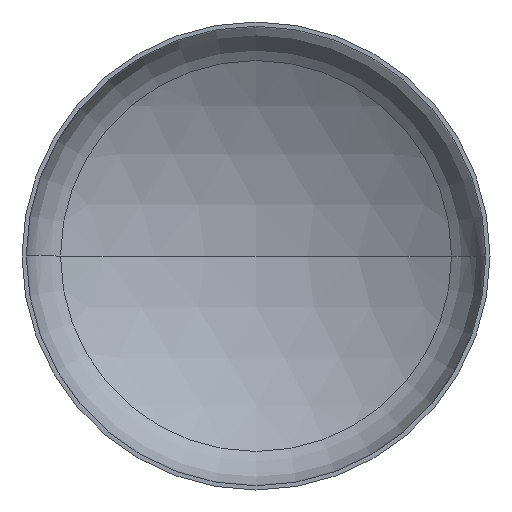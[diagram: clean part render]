
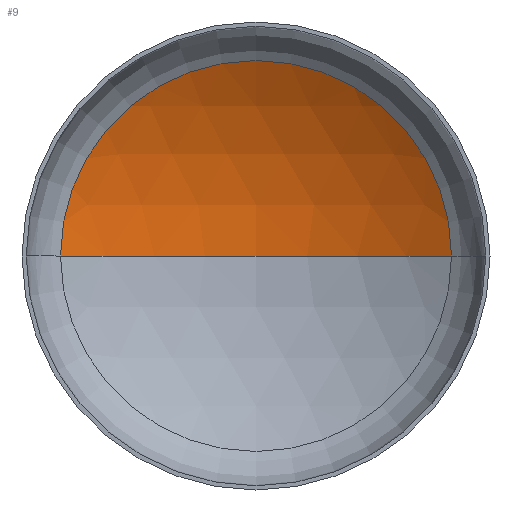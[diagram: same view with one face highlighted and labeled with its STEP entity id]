
A CAD part, front view. The second image highlights one B-rep face of the part: STEP entity #9.
In plain terms, the highlighted spherical face has radius 2560 mm.
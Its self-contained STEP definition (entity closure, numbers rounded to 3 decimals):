
#2 = DIRECTION ( 'NONE',  ( 0., -1., 0. ) ) ;
#9 = ADVANCED_FACE ( 'NONE', ( #149 ), #410, .F. ) ;
#19 = EDGE_LOOP ( 'NONE', ( #236, #142, #115 ) ) ;
#41 = AXIS2_PLACEMENT_3D ( 'NONE', #194, #208, #211 ) ;
#42 = AXIS2_PLACEMENT_3D ( 'NONE', #260, #259, #143 ) ;
#45 = AXIS2_PLACEMENT_3D ( 'NONE', #173, #2, #144 ) ;
#49 = VERTEX_POINT ( 'NONE', #255 ) ;
#60 = CARTESIAN_POINT ( 'NONE',  ( 0., 884.684, 0. ) ) ;
#77 = AXIS2_PLACEMENT_3D ( 'NONE', #367, #293, #297 ) ;
#98 = VERTEX_POINT ( 'NONE', #346 ) ;
#110 = EDGE_CURVE ( 'NONE', #49, #98, #343, .T. ) ;
#115 = ORIENTED_EDGE ( 'NONE', *, *, #110, .T. ) ;
#125 = VERTEX_POINT ( 'NONE', #60 ) ;
#133 = EDGE_CURVE ( 'NONE', #125, #49, #393, .T. ) ;
#142 = ORIENTED_EDGE ( 'NONE', *, *, #133, .T. ) ;
#143 = DIRECTION ( 'NONE',  ( 1., 0., 0. ) ) ;
#144 = DIRECTION ( 'NONE',  ( 1., 0., 0. ) ) ;
#149 = FACE_OUTER_BOUND ( 'NONE', #19, .T. ) ;
#155 = EDGE_CURVE ( 'NONE', #125, #98, #337, .T. ) ;
#173 = CARTESIAN_POINT ( 'NONE',  ( 0., 507.877, 0. ) ) ;
#194 = CARTESIAN_POINT ( 'NONE',  ( 0., -1675.316, 0. ) ) ;
#208 = DIRECTION ( 'NONE',  ( 0., 0., -1. ) ) ;
#211 = DIRECTION ( 'NONE',  ( -1., 0., 0. ) ) ;
#236 = ORIENTED_EDGE ( 'NONE', *, *, #155, .F. ) ;
#255 = CARTESIAN_POINT ( 'NONE',  ( 1336.889, 507.877, 0. ) ) ;
#259 = DIRECTION ( 'NONE',  ( 0., 0., 1. ) ) ;
#260 = CARTESIAN_POINT ( 'NONE',  ( 0., -1675.316, 0. ) ) ;
#293 = DIRECTION ( 'NONE',  ( 0., 0., -1. ) ) ;
#297 = DIRECTION ( 'NONE',  ( -1., 0., 0. ) ) ;
#337 = CIRCLE ( 'NONE', #42, 2560. ) ;
#343 = CIRCLE ( 'NONE', #45, 1336.889 ) ;
#346 = CARTESIAN_POINT ( 'NONE',  ( -1336.889, 507.877, 0. ) ) ;
#367 = CARTESIAN_POINT ( 'NONE',  ( 0., -1675.316, 0. ) ) ;
#393 = CIRCLE ( 'NONE', #41, 2560. ) ;
#410 = SPHERICAL_SURFACE ( 'NONE', #77, 2560. ) ;
